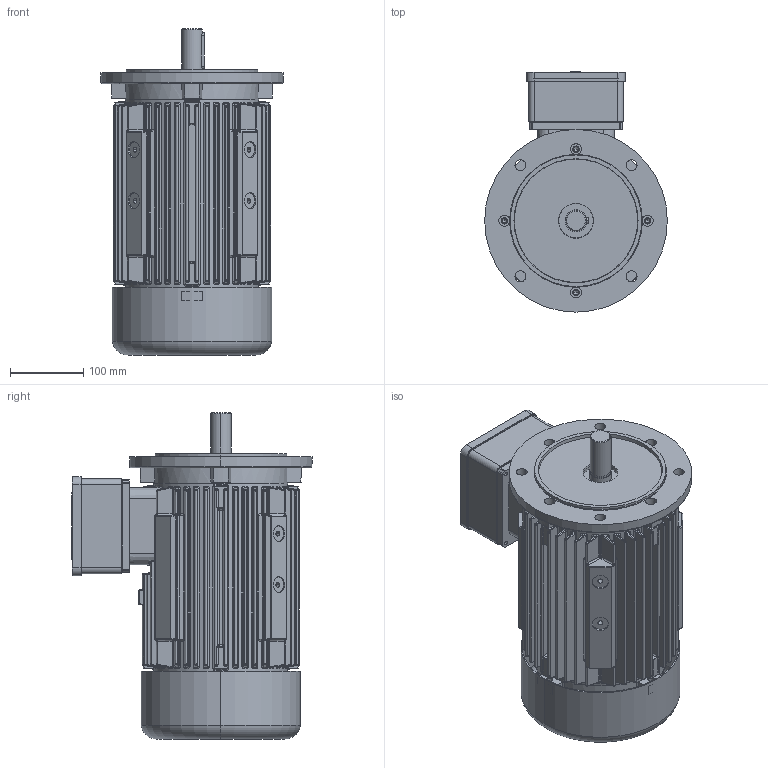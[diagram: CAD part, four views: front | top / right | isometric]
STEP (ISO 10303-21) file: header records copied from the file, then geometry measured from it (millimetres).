
FILE_DESCRIPTION (( 'STEP AP214' ), '1' );
FILE_NAME ('20.18455-B 7AT 112 B5 Exde STANDK.STEP', '2018-05-11T08:12:50', ( '' ), ( '' ), 'SwSTEP 2.0', 'SolidWorks 2017', '' );
FILE_SCHEMA (( 'AUTOMOTIVE_DESIGN' ));
Length unit declared in the file: millimetre
Products named in the file (1): 20.18455-B 7AT 112 B5 Exde STANDK
Bounding box: 249.9 x 328.75 x 446 mm (x, y, z)
Volume: 5082810.2 mm3; surface area: 1276258.2 mm2
Topology: 9 solids, 9 shells, 2918 faces, 7094 edges, 4091 vertices
Faces by surface type: cylinder 1027, bspline 952, plane 594, sphere 126, torus 113, cone 106
Entity records: 149845 total; most frequent: CARTESIAN_POINT 58176, ORIENTED_EDGE 13716, DIRECTION 11043, EDGE_CURVE 6858, AXIS2_PLACEMENT_3D 4361, VERTEX_POINT 4081, EDGE_LOOP 3111, ADVANCED_FACE 2918
